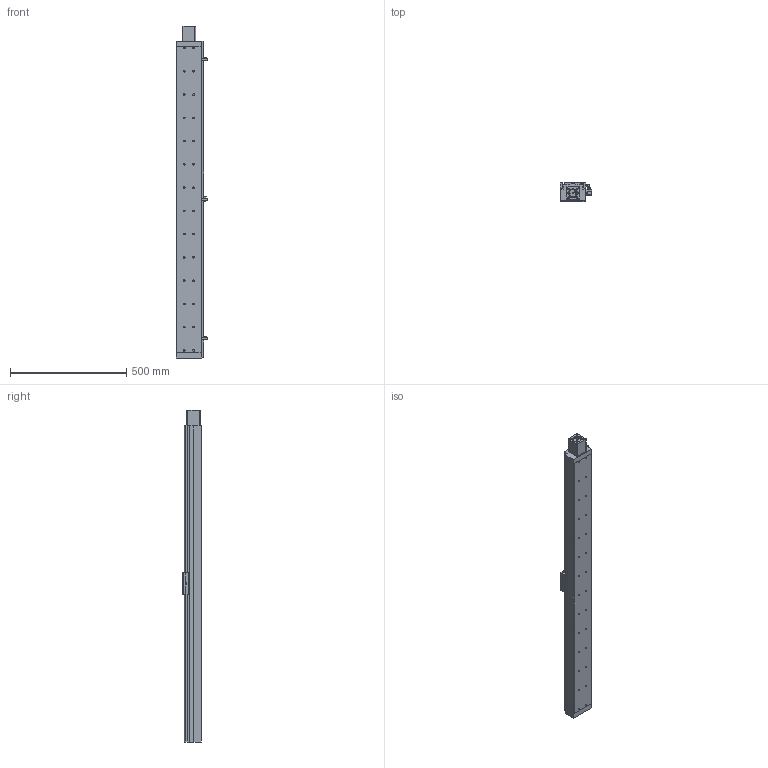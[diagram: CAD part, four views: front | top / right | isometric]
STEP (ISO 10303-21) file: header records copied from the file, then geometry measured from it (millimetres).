
FILE_DESCRIPTION((''),'2;1');
FILE_NAME('E:\libraries\UIA actuator library 2009\standard actuator\UIA110R12(15)DC\UIA110R12(15)DC-ball screw dia.20\UIA110R12(15)DC-_ _ _-R20_ _-M23 step file 20Apr16\UIA110R12(15)DC-1200-R20_ _-M23-P13-C10-S.stp','2016-04-21T16:39:11',('h029'),(''),'Autodesk Inventor 11','Autodesk Inventor 11','');
FILE_SCHEMA(('AUTOMOTIVE_DESIGN { 1 0 10303 214 1 1 1 1 }'));
Length unit declared in the file: millimetre
Products named in the file (10): UIA110R12(15)DC-1200, ball screw dia.20; body, UIA110R12(15)DC-1200,ball screw dia.20; Carriage, UIA110R12(15)DC; Sen Switch, UIA110R12(15)DC; sensor rail, UIA110R12(15)DC; M23 motor mount; SOH-32C; SOH-32C-3; SOH-32C-1; SOH-32C-2
Assembly tree (9 placements, depth 3):
  UIA110R12(15)DC-1200, ball screw dia.20
    body, UIA110R12(15)DC-1200,ball screw dia.20
    Carriage, UIA110R12(15)DC
    Sen Switch, UIA110R12(15)DC
    sensor rail, UIA110R12(15)DC
    M23 motor mount
    SOH-32C
      SOH-32C-3
      SOH-32C-1
      SOH-32C-2
Bounding box: 136.5 x 81 x 1427 mm (x, y, z)
Volume: 10207773.7 mm3; surface area: 764274.8 mm2
Topology: 8 solids, 8 shells, 693 faces, 1800 edges, 1181 vertices
Faces by surface type: plane 435, cylinder 156, bspline 83, cone 19
Full cylindrical faces by diameter (mm): 2.459 x4, 3.242 x4, 4 x6, 4.5 x4, 5.5 x3, 6.35 x1, 6.5 x28, 7.5 x4, 9.5 x6, 10 x2, 10.5 x28, 12 x1, 25 x1, 32 x3, 37 x1, 38.1 x1, 42 x1, 42.01 x1, 43.5 x1
Entity records: 21540 total; most frequent: CARTESIAN_POINT 5331, DIRECTION 3287, ORIENTED_EDGE 3066, EDGE_CURVE 1533, AXIS2_PLACEMENT_3D 1142, VERTEX_POINT 1104, VECTOR 1003, LINE 1003
